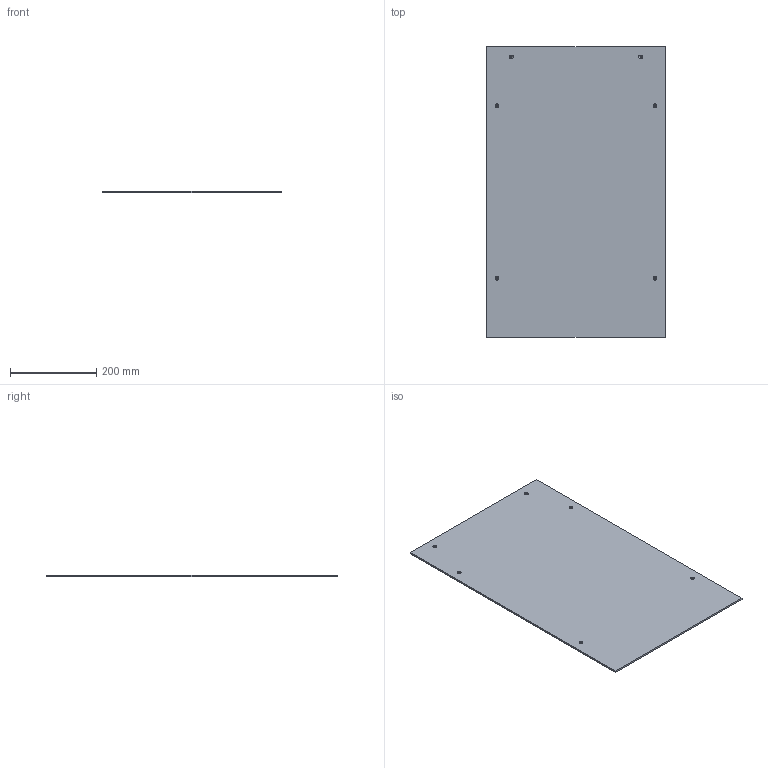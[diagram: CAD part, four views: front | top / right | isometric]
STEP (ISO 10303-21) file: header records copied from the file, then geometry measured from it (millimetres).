
FILE_DESCRIPTION (( 'STEP AP203' ), '1' );
FILE_NAME ('Planche_Déflecteur_Bas.STEP', '2026-06-24T07:29:51', ( '' ), ( '' ), 'SwSTEP 2.0', 'SolidWorks 2024', '' );
FILE_SCHEMA (( 'CONFIG_CONTROL_DESIGN' ));
Length unit declared in the file: millimetre
Products named in the file (1): Planche_Déflecteur_Bas
Bounding box: 415 x 675 x 4 mm (x, y, z)
Volume: 1119790 mm3; surface area: 569032.2 mm2
Topology: 1 solids, 1 shells, 18 faces, 48 edges, 32 vertices
Faces by surface type: plane 6, cylinder 6, cone 6
Full cylindrical faces by diameter (mm): 5 x6
Entity records: 555 total; most frequent: DIRECTION 86, CARTESIAN_POINT 75, ORIENTED_EDGE 60, EDGE_LOOP 42, AXIS2_PLACEMENT_3D 37, EDGE_CURVE 30, VERTEX_POINT 26, FACE_OUTER_BOUND 24
